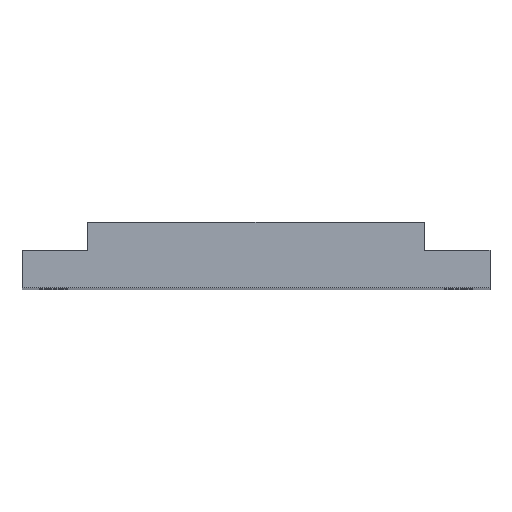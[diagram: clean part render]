
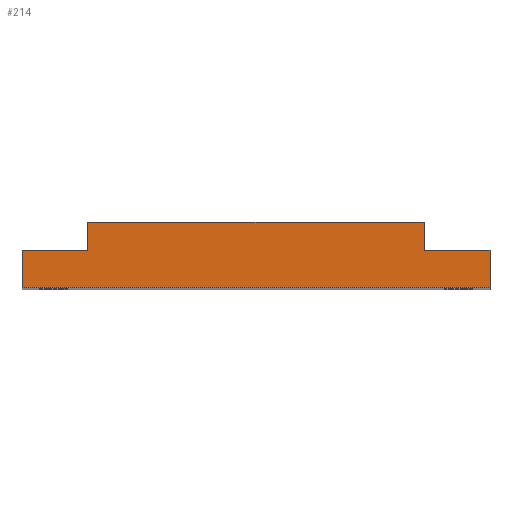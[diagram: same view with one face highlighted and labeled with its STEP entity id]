
A CAD part, top view. The second image highlights one B-rep face of the part: STEP entity #214.
In plain terms, the highlighted planar face has unit normal (0, 0, 1).
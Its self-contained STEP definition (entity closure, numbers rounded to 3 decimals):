
#6 = CARTESIAN_POINT ( 'NONE',  ( -27., 7.5, 192. ) ) ;
#17 = DIRECTION ( 'NONE',  ( -1., 0., 0. ) ) ;
#38 = CARTESIAN_POINT ( 'NONE',  ( 0., 0., 192. ) ) ;
#50 = EDGE_CURVE ( 'NONE', #772, #321, #81, .T. ) ;
#61 = VECTOR ( 'NONE', #94, 1000. ) ;
#81 = LINE ( 'NONE', #754, #578 ) ;
#84 = EDGE_CURVE ( 'NONE', #321, #784, #289, .T. ) ;
#94 = DIRECTION ( 'NONE',  ( 0., 1., 0. ) ) ;
#106 = VERTEX_POINT ( 'NONE', #466 ) ;
#108 = VECTOR ( 'NONE', #263, 1000. ) ;
#143 = VECTOR ( 'NONE', #182, 1000. ) ;
#182 = DIRECTION ( 'NONE',  ( 0., -1., 0. ) ) ;
#214 = ADVANCED_FACE ( 'NONE', ( #335 ), #534, .T. ) ;
#234 = LINE ( 'NONE', #379, #143 ) ;
#243 = ORIENTED_EDGE ( 'NONE', *, *, #791, .T. ) ;
#259 = DIRECTION ( 'NONE',  ( 1., 0., 0. ) ) ;
#262 = VECTOR ( 'NONE', #642, 1000. ) ;
#263 = DIRECTION ( 'NONE',  ( 0., 1., 0. ) ) ;
#289 = LINE ( 'NONE', #688, #108 ) ;
#321 = VERTEX_POINT ( 'NONE', #807 ) ;
#335 = FACE_OUTER_BOUND ( 'NONE', #692, .T. ) ;
#342 = CARTESIAN_POINT ( 'NONE',  ( 37.5, 3., 192. ) ) ;
#344 = CARTESIAN_POINT ( 'NONE',  ( -27., 3., 192. ) ) ;
#368 = LINE ( 'NONE', #444, #61 ) ;
#370 = LINE ( 'NONE', #342, #698 ) ;
#379 = CARTESIAN_POINT ( 'NONE',  ( -37.5, -3., 192. ) ) ;
#418 = VERTEX_POINT ( 'NONE', #686 ) ;
#442 = CARTESIAN_POINT ( 'NONE',  ( -27., 7.5, 192. ) ) ;
#444 = CARTESIAN_POINT ( 'NONE',  ( 27., 7.5, 192. ) ) ;
#449 = LINE ( 'NONE', #786, #262 ) ;
#466 = CARTESIAN_POINT ( 'NONE',  ( 27., 7.5, 192. ) ) ;
#473 = CARTESIAN_POINT ( 'NONE',  ( -37.5, 3., 192. ) ) ;
#493 = DIRECTION ( 'NONE',  ( 0., -1., 0. ) ) ;
#500 = EDGE_CURVE ( 'NONE', #510, #772, #234, .T. ) ;
#510 = VERTEX_POINT ( 'NONE', #473 ) ;
#518 = DIRECTION ( 'NONE',  ( 1., 0., 0. ) ) ;
#520 = ORIENTED_EDGE ( 'NONE', *, *, #838, .T. ) ;
#534 = PLANE ( 'NONE',  #697 ) ;
#554 = LINE ( 'NONE', #6, #913 ) ;
#557 = ORIENTED_EDGE ( 'NONE', *, *, #50, .T. ) ;
#578 = VECTOR ( 'NONE', #518, 1000. ) ;
#598 = LINE ( 'NONE', #442, #748 ) ;
#641 = DIRECTION ( 'NONE',  ( -1., 0., 0. ) ) ;
#642 = DIRECTION ( 'NONE',  ( -1., 0., 0. ) ) ;
#643 = ORIENTED_EDGE ( 'NONE', *, *, #844, .T. ) ;
#678 = ORIENTED_EDGE ( 'NONE', *, *, #737, .T. ) ;
#682 = ORIENTED_EDGE ( 'NONE', *, *, #84, .T. ) ;
#686 = CARTESIAN_POINT ( 'NONE',  ( -27., 7.5, 192. ) ) ;
#688 = CARTESIAN_POINT ( 'NONE',  ( 37.5, -3., 192. ) ) ;
#692 = EDGE_LOOP ( 'NONE', ( #714, #557, #682, #725, #243, #520, #643, #678 ) ) ;
#693 = VERTEX_POINT ( 'NONE', #850 ) ;
#697 = AXIS2_PLACEMENT_3D ( 'NONE', #38, #897, #259 ) ;
#698 = VECTOR ( 'NONE', #641, 1000. ) ;
#700 = EDGE_CURVE ( 'NONE', #784, #693, #370, .T. ) ;
#714 = ORIENTED_EDGE ( 'NONE', *, *, #500, .T. ) ;
#725 = ORIENTED_EDGE ( 'NONE', *, *, #700, .T. ) ;
#737 = EDGE_CURVE ( 'NONE', #771, #510, #449, .T. ) ;
#748 = VECTOR ( 'NONE', #17, 1000. ) ;
#754 = CARTESIAN_POINT ( 'NONE',  ( 37.5, -3., 192. ) ) ;
#771 = VERTEX_POINT ( 'NONE', #344 ) ;
#772 = VERTEX_POINT ( 'NONE', #924 ) ;
#781 = CARTESIAN_POINT ( 'NONE',  ( 37.5, 3., 192. ) ) ;
#784 = VERTEX_POINT ( 'NONE', #781 ) ;
#786 = CARTESIAN_POINT ( 'NONE',  ( -27., 3., 192. ) ) ;
#791 = EDGE_CURVE ( 'NONE', #693, #106, #368, .T. ) ;
#807 = CARTESIAN_POINT ( 'NONE',  ( 37.5, -3., 192. ) ) ;
#838 = EDGE_CURVE ( 'NONE', #106, #418, #598, .T. ) ;
#844 = EDGE_CURVE ( 'NONE', #418, #771, #554, .T. ) ;
#850 = CARTESIAN_POINT ( 'NONE',  ( 27., 3., 192. ) ) ;
#897 = DIRECTION ( 'NONE',  ( 0., 0., 1. ) ) ;
#913 = VECTOR ( 'NONE', #493, 1000. ) ;
#924 = CARTESIAN_POINT ( 'NONE',  ( -37.5, -3., 192. ) ) ;
